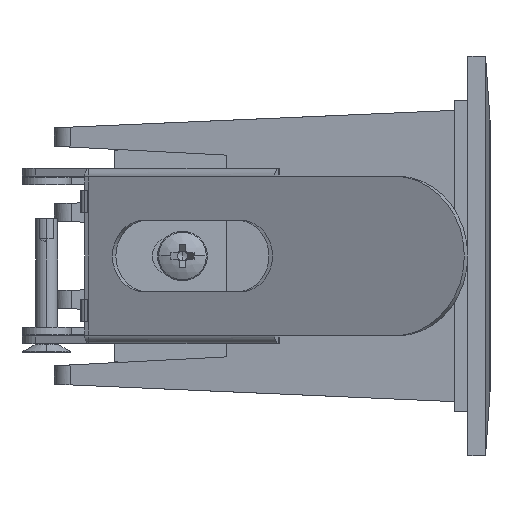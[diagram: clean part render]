
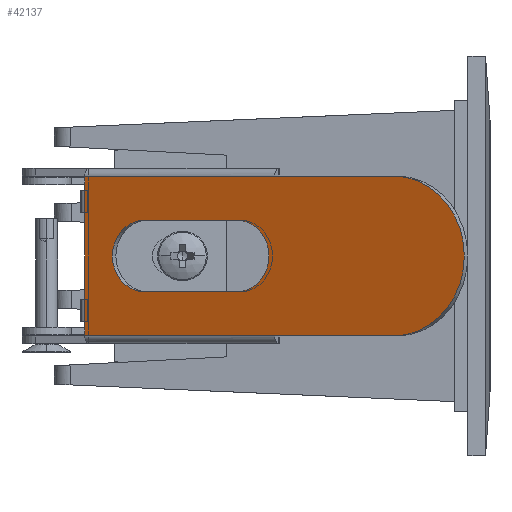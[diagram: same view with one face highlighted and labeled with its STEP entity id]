
A CAD part, left-side view. The second image highlights one B-rep face of the part: STEP entity #42137.
In plain terms, the highlighted planar face has unit normal (-0.89, 0.457, 0) as drawn and (0, 1, 0) by its records, which use the part's own axes.
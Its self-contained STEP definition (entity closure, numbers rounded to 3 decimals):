
#353 = ORIENTED_EDGE ( 'NONE', *, *, #21147, .T. ) ;
#855 = LINE ( 'NONE', #21895, #14915 ) ;
#958 = CARTESIAN_POINT ( 'NONE',  ( -19.5, 0., -9. ) ) ;
#1106 = ORIENTED_EDGE ( 'NONE', *, *, #14481, .F. ) ;
#1447 = DIRECTION ( 'NONE',  ( 0., 0., 1. ) ) ;
#1505 = LINE ( 'NONE', #18870, #43428 ) ;
#1604 = CIRCLE ( 'NONE', #13413, 9. ) ;
#1682 = EDGE_CURVE ( 'NONE', #18008, #6952, #25508, .T. ) ;
#1933 = ORIENTED_EDGE ( 'NONE', *, *, #16739, .T. ) ;
#2041 = LINE ( 'NONE', #37190, #24378 ) ;
#2350 = AXIS2_PLACEMENT_3D ( 'NONE', #6008, #44384, #27282 ) ;
#2498 = CARTESIAN_POINT ( 'NONE',  ( 4.5, 0., 9. ) ) ;
#2948 = DIRECTION ( 'NONE',  ( 0., 1., 0. ) ) ;
#3126 = VERTEX_POINT ( 'NONE', #40266 ) ;
#3350 = ORIENTED_EDGE ( 'NONE', *, *, #8434, .F. ) ;
#3949 = CARTESIAN_POINT ( 'NONE',  ( -19.5, 0., -4.85 ) ) ;
#4082 = DIRECTION ( 'NONE',  ( 0., -1., 0. ) ) ;
#4218 = EDGE_LOOP ( 'NONE', ( #3350, #16966, #16581, #44987, #1933, #24391, #38751, #353, #40335, #18664, #19758, #22459 ) ) ;
#4718 = EDGE_CURVE ( 'NONE', #40003, #15523, #1505, .T. ) ;
#5163 = DIRECTION ( 'NONE',  ( 0., 0., 1. ) ) ;
#5392 = LINE ( 'NONE', #36373, #5924 ) ;
#5924 = VECTOR ( 'NONE', #1447, 1000. ) ;
#5946 = DIRECTION ( 'NONE',  ( 0., 1., 0. ) ) ;
#6008 = CARTESIAN_POINT ( 'NONE',  ( -12., 0., 0. ) ) ;
#6042 = CIRCLE ( 'NONE', #2350, 4. ) ;
#6516 = EDGE_CURVE ( 'NONE', #30460, #8358, #16576, .T. ) ;
#6648 = DIRECTION ( 'NONE',  ( 0., 0., -1. ) ) ;
#6952 = VERTEX_POINT ( 'NONE', #10005 ) ;
#7455 = VECTOR ( 'NONE', #45536, 1000. ) ;
#7586 = EDGE_CURVE ( 'NONE', #45337, #38699, #1604, .T. ) ;
#7693 = CARTESIAN_POINT ( 'NONE',  ( -19.5, 0., 0. ) ) ;
#7916 = VERTEX_POINT ( 'NONE', #36891 ) ;
#8358 = VERTEX_POINT ( 'NONE', #42919 ) ;
#8434 = EDGE_CURVE ( 'NONE', #45517, #7916, #44276, .T. ) ;
#9846 = DIRECTION ( 'NONE',  ( 0., 0., -1. ) ) ;
#9848 = LINE ( 'NONE', #24182, #13301 ) ;
#10005 = CARTESIAN_POINT ( 'NONE',  ( -19.5, 0., 7.4 ) ) ;
#10063 = CARTESIAN_POINT ( 'NONE',  ( -19.5, 0., 8.9 ) ) ;
#10178 = LINE ( 'NONE', #24285, #7455 ) ;
#10482 = DIRECTION ( 'NONE',  ( 0., 0., 1. ) ) ;
#13206 = VECTOR ( 'NONE', #10482, 1000. ) ;
#13301 = VECTOR ( 'NONE', #20703, 1000. ) ;
#13413 = AXIS2_PLACEMENT_3D ( 'NONE', #45704, #2948, #6648 ) ;
#13727 = EDGE_CURVE ( 'NONE', #43161, #3126, #10178, .T. ) ;
#14027 = EDGE_CURVE ( 'NONE', #22418, #8358, #2041, .T. ) ;
#14256 = CARTESIAN_POINT ( 'NONE',  ( 19.5, 0., -9. ) ) ;
#14399 = DIRECTION ( 'NONE',  ( 0., 0., 1. ) ) ;
#14481 = EDGE_CURVE ( 'NONE', #36262, #30460, #9848, .T. ) ;
#14708 = FACE_OUTER_BOUND ( 'NONE', #4218, .T. ) ;
#14732 = CARTESIAN_POINT ( 'NONE',  ( -0.2, 0., 4. ) ) ;
#14915 = VECTOR ( 'NONE', #29294, 1000. ) ;
#15269 = VERTEX_POINT ( 'NONE', #37484 ) ;
#15523 = VERTEX_POINT ( 'NONE', #3949 ) ;
#16157 = LINE ( 'NONE', #37202, #38318 ) ;
#16576 = CIRCLE ( 'NONE', #22489, 4. ) ;
#16581 = ORIENTED_EDGE ( 'NONE', *, *, #44586, .T. ) ;
#16739 = EDGE_CURVE ( 'NONE', #15523, #18008, #5392, .T. ) ;
#16966 = ORIENTED_EDGE ( 'NONE', *, *, #20479, .T. ) ;
#17426 = LINE ( 'NONE', #45612, #13206 ) ;
#18008 = VERTEX_POINT ( 'NONE', #31715 ) ;
#18190 = DIRECTION ( 'NONE',  ( 0., 0., -1. ) ) ;
#18664 = ORIENTED_EDGE ( 'NONE', *, *, #33851, .T. ) ;
#18870 = CARTESIAN_POINT ( 'NONE',  ( -19.5, 0., 0. ) ) ;
#19438 = VECTOR ( 'NONE', #25477, 1000. ) ;
#19758 = ORIENTED_EDGE ( 'NONE', *, *, #7586, .T. ) ;
#19955 = EDGE_CURVE ( 'NONE', #22418, #36262, #6042, .T. ) ;
#20101 = VECTOR ( 'NONE', #26552, 1000. ) ;
#20479 = EDGE_CURVE ( 'NONE', #45517, #31968, #43886, .T. ) ;
#20508 = CARTESIAN_POINT ( 'NONE',  ( 19.5, 0., 9. ) ) ;
#20703 = DIRECTION ( 'NONE',  ( 1., 0., 0. ) ) ;
#21147 = EDGE_CURVE ( 'NONE', #15269, #3126, #41715, .T. ) ;
#21895 = CARTESIAN_POINT ( 'NONE',  ( -19.5, 0., -9. ) ) ;
#22101 = PLANE ( 'NONE',  #30423 ) ;
#22418 = VERTEX_POINT ( 'NONE', #28835 ) ;
#22422 = EDGE_CURVE ( 'NONE', #38699, #7916, #855, .T. ) ;
#22459 = ORIENTED_EDGE ( 'NONE', *, *, #22422, .T. ) ;
#22489 = AXIS2_PLACEMENT_3D ( 'NONE', #37618, #5946, #5163 ) ;
#22544 = VECTOR ( 'NONE', #14399, 1000. ) ;
#23058 = ORIENTED_EDGE ( 'NONE', *, *, #14027, .T. ) ;
#24182 = CARTESIAN_POINT ( 'NONE',  ( -12., 0., 4. ) ) ;
#24285 = CARTESIAN_POINT ( 'NONE',  ( 4.5, 0., 0. ) ) ;
#24378 = VECTOR ( 'NONE', #36503, 1000. ) ;
#24391 = ORIENTED_EDGE ( 'NONE', *, *, #1682, .T. ) ;
#25477 = DIRECTION ( 'NONE',  ( 0., 0., 1. ) ) ;
#25508 = LINE ( 'NONE', #7693, #22544 ) ;
#25584 = DIRECTION ( 'NONE',  ( 0., 0., 1. ) ) ;
#26167 = VECTOR ( 'NONE', #9846, 1000. ) ;
#26420 = ORIENTED_EDGE ( 'NONE', *, *, #19955, .F. ) ;
#26552 = DIRECTION ( 'NONE',  ( -1., 0., 0. ) ) ;
#27282 = DIRECTION ( 'NONE',  ( 0., 0., 1. ) ) ;
#28213 = EDGE_CURVE ( 'NONE', #6952, #15269, #17426, .T. ) ;
#28804 = CARTESIAN_POINT ( 'NONE',  ( -12., 0., 4. ) ) ;
#28835 = CARTESIAN_POINT ( 'NONE',  ( -12., 0., -4. ) ) ;
#29294 = DIRECTION ( 'NONE',  ( -1., 0., 0. ) ) ;
#30423 = AXIS2_PLACEMENT_3D ( 'NONE', #43139, #4082, #18190 ) ;
#30433 = CARTESIAN_POINT ( 'NONE',  ( 4.5, 0., 0. ) ) ;
#30460 = VERTEX_POINT ( 'NONE', #14732 ) ;
#31194 = CARTESIAN_POINT ( 'NONE',  ( -19.5, 0., -8.9 ) ) ;
#31715 = CARTESIAN_POINT ( 'NONE',  ( -19.5, 0., 4.85 ) ) ;
#31968 = VERTEX_POINT ( 'NONE', #31194 ) ;
#33723 = DIRECTION ( 'NONE',  ( 1., 0., 0. ) ) ;
#33851 = EDGE_CURVE ( 'NONE', #43161, #45337, #16157, .T. ) ;
#35712 = ORIENTED_EDGE ( 'NONE', *, *, #6516, .F. ) ;
#35981 = FACE_BOUND ( 'NONE', #44918, .T. ) ;
#36262 = VERTEX_POINT ( 'NONE', #28804 ) ;
#36373 = CARTESIAN_POINT ( 'NONE',  ( -19.5, 0., -9. ) ) ;
#36503 = DIRECTION ( 'NONE',  ( 1., 0., 0. ) ) ;
#36891 = CARTESIAN_POINT ( 'NONE',  ( 4.5, 0., -9. ) ) ;
#37190 = CARTESIAN_POINT ( 'NONE',  ( -12., 0., -4. ) ) ;
#37202 = CARTESIAN_POINT ( 'NONE',  ( -19.5, 0., 9. ) ) ;
#37484 = CARTESIAN_POINT ( 'NONE',  ( -19.5, 0., 8.9 ) ) ;
#37560 = CARTESIAN_POINT ( 'NONE',  ( 4.5, 0., -8.9 ) ) ;
#37618 = CARTESIAN_POINT ( 'NONE',  ( -0.2, 0., 0. ) ) ;
#37802 = DIRECTION ( 'NONE',  ( 1., 0., 0. ) ) ;
#37865 = CARTESIAN_POINT ( 'NONE',  ( 4.5, 0., -8.9 ) ) ;
#38318 = VECTOR ( 'NONE', #33723, 1000. ) ;
#38699 = VERTEX_POINT ( 'NONE', #14256 ) ;
#38751 = ORIENTED_EDGE ( 'NONE', *, *, #28213, .T. ) ;
#39986 = VECTOR ( 'NONE', #37802, 1000. ) ;
#40003 = VERTEX_POINT ( 'NONE', #43936 ) ;
#40266 = CARTESIAN_POINT ( 'NONE',  ( 4.5, 0., 8.9 ) ) ;
#40335 = ORIENTED_EDGE ( 'NONE', *, *, #13727, .F. ) ;
#41715 = LINE ( 'NONE', #10063, #39986 ) ;
#42137 = ADVANCED_FACE ( 'NONE', ( #35981, #14708 ), #22101, .F. ) ;
#42919 = CARTESIAN_POINT ( 'NONE',  ( -0.2, 0., -4. ) ) ;
#43020 = LINE ( 'NONE', #958, #19438 ) ;
#43139 = CARTESIAN_POINT ( 'NONE',  ( 19.5, 0., 0. ) ) ;
#43161 = VERTEX_POINT ( 'NONE', #2498 ) ;
#43428 = VECTOR ( 'NONE', #25584, 1000. ) ;
#43886 = LINE ( 'NONE', #37865, #20101 ) ;
#43936 = CARTESIAN_POINT ( 'NONE',  ( -19.5, 0., -7.4 ) ) ;
#44276 = LINE ( 'NONE', #30433, #26167 ) ;
#44384 = DIRECTION ( 'NONE',  ( 0., 1., 0. ) ) ;
#44586 = EDGE_CURVE ( 'NONE', #31968, #40003, #43020, .T. ) ;
#44918 = EDGE_LOOP ( 'NONE', ( #35712, #1106, #26420, #23058 ) ) ;
#44987 = ORIENTED_EDGE ( 'NONE', *, *, #4718, .T. ) ;
#45337 = VERTEX_POINT ( 'NONE', #20508 ) ;
#45517 = VERTEX_POINT ( 'NONE', #37560 ) ;
#45536 = DIRECTION ( 'NONE',  ( 0., 0., -1. ) ) ;
#45612 = CARTESIAN_POINT ( 'NONE',  ( -19.5, 0., -9. ) ) ;
#45704 = CARTESIAN_POINT ( 'NONE',  ( 19.5, 0., 0. ) ) ;
